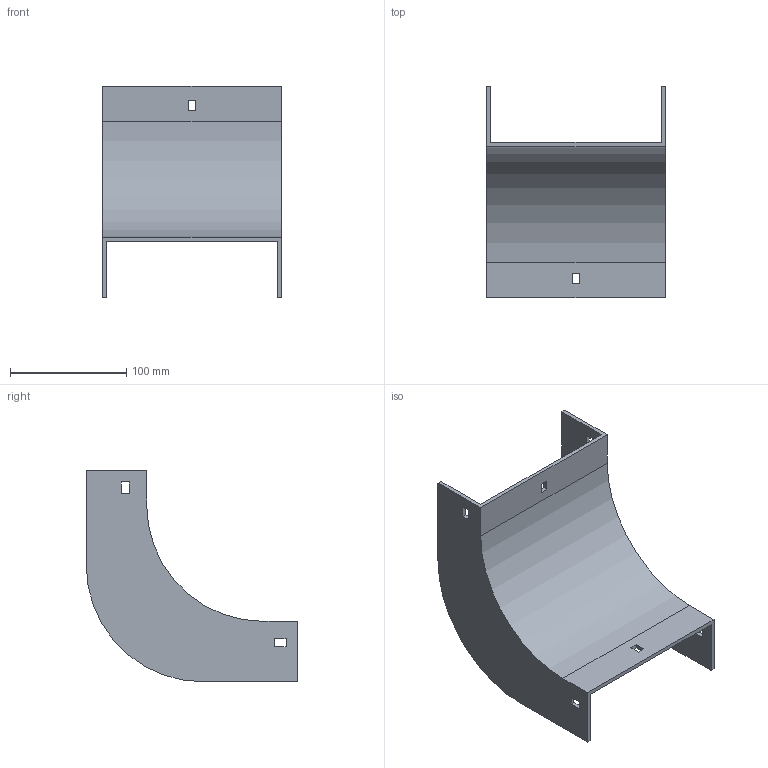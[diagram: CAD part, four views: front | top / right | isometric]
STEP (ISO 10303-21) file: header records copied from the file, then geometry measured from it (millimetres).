
FILE_DESCRIPTION (( 'STEP AP214' ), '1' );
FILE_NAME ('33F1B150.step', '2025-02-21T12:52:20', ( '' ), ( '' ), 'SwSTEP 2.0', 'SolidWorks 2023', '' );
FILE_SCHEMA (( 'AUTOMOTIVE_DESIGN' ));
Length unit declared in the file: millimetre
Products named in the file (1): 33F1B150
Bounding box: 154 x 182 x 182 mm (x, y, z)
Volume: 225280.3 mm3; surface area: 133409.9 mm2
Topology: 1 solids, 1 shells, 42 faces, 120 edges, 80 vertices
Faces by surface type: plane 38, cylinder 4
Entity records: 1399 total; most frequent: CARTESIAN_POINT 243, ORIENTED_EDGE 240, DIRECTION 214, EDGE_CURVE 120, LINE 112, VECTOR 112, VERTEX_POINT 80, EDGE_LOOP 54
